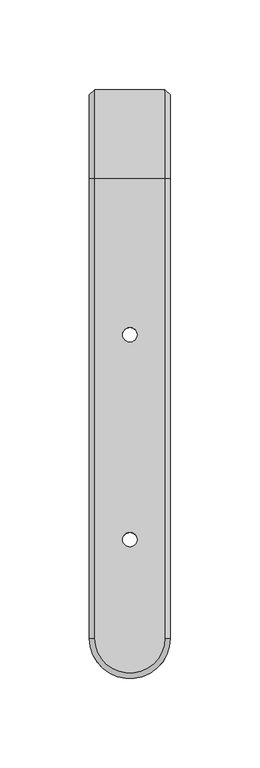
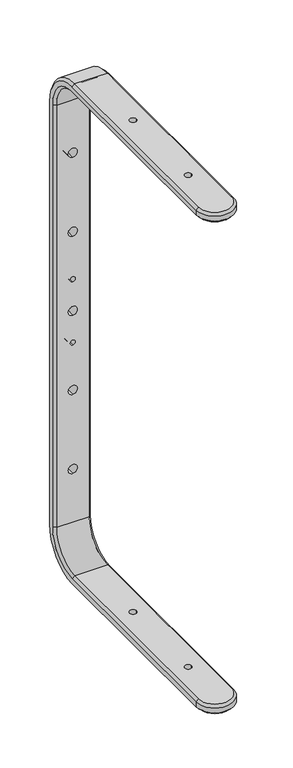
"""IFC4 building model written with IfcOpenShell, lengths in millimetres: proxy geometry, ePS12-HBRK600-WVM : ePS12-HBRK600-WVM."""

from ifc_helpers import new_model, si_unit, frame, origin, place, context, project, spatial, polyline, circle_curve, source, transform, mapped, element, save
from ifc_brep_helpers import plane_surface, cylinder_surface, revolved_surface, advanced_brep


def generic_models_739b781f(model_context):
    return source(origin(), model_context, "Body", "AdvancedBrep", [
        advanced_brep(
        [(19.5718345, -306.5012591, 317.0), (19.5718345, -50.0, 317.0), (-19.5718345, -50.0, 317.0), (-19.5718345, -306.5012591, 317.0), (4.0, -137.0012591, 317.0), (-4.0, -137.0012591, 317.0), (4.0, -251.5012591, 317.0), (-4.0, -251.5012591, 317.0), (-22.5718345, -50.0, 314.0), (-22.5718345, -306.5012591, 314.0), (-22.5718345, -3.0, 267.0), (-22.5718345, -3.0, -267.0), (-22.5718345, -50.0, -314.0), (-22.5718345, -306.5012591, -314.0), (-22.5718345, -306.5012591, -308.0), (-22.5718345, -50.0, -308.0), (-22.5718345, -9.0, -267.0), (-22.5718345, -9.0, 267.0), (-22.5718345, -50.0, 308.0), (-22.5718345, -306.5012591, 308.0), (-19.5718345, -50.0, 305.0), (-19.5718345, -306.5012591, 305.0), (19.5718345, -50.0, 305.0), (19.5718345, -306.5012591, 305.0), (-4.0, -137.0012591, 305.0), (4.0, -137.0012591, 305.0), (-4.0, -251.5012591, 305.0), (4.0, -251.5012591, 305.0), (19.5718345, 0.0, 267.0), (-19.5718345, 0.0, 267.0), (-19.5718345, -12.0, 267.0), (19.5718345, -12.0, 267.0), (19.5718345, 0.0, -267.0), (-19.5718345, 0.0, -267.0), (0.0, 0.0, 5.5), (0.0, 0.0, -5.5), (0.0, 0.0, -194.5), (0.0, 0.0, -205.5), (0.0, 0.0, -37.0), (0.0, 0.0, -43.0), (0.0, 0.0, -94.5), (0.0, 0.0, -105.5), (0.0, 0.0, 194.5), (0.0, 0.0, 205.5), (0.0, 0.0, 37.0), (0.0, 0.0, 43.0), (0.0, 0.0, 94.5), (0.0, 0.0, 105.5), (-19.5718345, -12.0, -267.0), (19.5718345, -12.0, -267.0), (0.0, -12.0, -5.5), (0.0, -12.0, 5.5), (0.0, -12.0, -205.5), (0.0, -12.0, -194.5), (0.0, -12.0, -43.0), (0.0, -12.0, -37.0), (0.0, -12.0, -105.5), (0.0, -12.0, -94.5), (0.0, -12.0, 205.5), (0.0, -12.0, 194.5), (0.0, -12.0, 43.0), (0.0, -12.0, 37.0), (0.0, -12.0, 105.5), (0.0, -12.0, 94.5), (19.5718345, -50.0, -317.0), (-19.5718345, -50.0, -317.0), (-19.5718345, -50.0, -305.0), (19.5718345, -50.0, -305.0), (19.5718345, -306.5012591, -317.0), (-19.5718345, -306.5012591, -317.0), (-4.0, -137.0012591, -317.0), (4.0, -137.0012591, -317.0), (-4.0, -251.5012591, -317.0), (4.0, -251.5012591, -317.0), (-19.5718345, -306.5012591, -305.0), (19.5718345, -306.5012591, -305.0), (4.0, -137.0012591, -305.0), (-4.0, -137.0012591, -305.0), (4.0, -251.5012591, -305.0), (-4.0, -251.5012591, -305.0), (22.5718345, -50.0, 308.0), (22.5718345, -306.5012591, 308.0), (22.5718345, -9.0, 267.0), (22.5718345, -9.0, -267.0), (22.5718345, -50.0, -308.0), (22.5718345, -306.5012591, -308.0), (22.5718345, -306.5012591, -314.0), (22.5718345, -50.0, -314.0), (22.5718345, -3.0, -267.0), (22.5718345, -3.0, 267.0), (22.5718345, -50.0, 314.0), (22.5718345, -306.5012591, 314.0)],
        [
            (0, 1),
            (1, 2),
            (2, 3),
            (3, 0, circle_curve(frame((0.0, -306.5012591, 317.0), z_axis=(0.0, 0.0, 1.0), x_axis=(-1.0, 0.0, 0.0)), 19.5718345)),
            (4, 5, circle_curve(frame((0.0, -137.0012591, 317.0), z_axis=(0.0, 0.0, -1.0), x_axis=(1.0, 0.0, 0.0)), 4.0)),
            (5, 4, circle_curve(frame((0.0, -137.0012591, 317.0), z_axis=(0.0, 0.0, -1.0), x_axis=(1.0, 0.0, 0.0)), 4.0)),
            (6, 7, circle_curve(frame((0.0, -251.5012591, 317.0), z_axis=(0.0, 0.0, -1.0), x_axis=(1.0, 0.0, 0.0)), 4.0)),
            (7, 6, circle_curve(frame((0.0, -251.5012591, 317.0), z_axis=(0.0, 0.0, -1.0), x_axis=(1.0, 0.0, 0.0)), 4.0)),
            (2, 8),
            (8, 9),
            (9, 3),
            (8, 10, circle_curve(frame((-22.5718345, -50.0, 267.0), z_axis=(-1.0, 0.0, 0.0), x_axis=(0.0, 0.0, 1.0)), 47.0)),
            (10, 11),
            (11, 12, circle_curve(frame((-22.5718345, -50.0, -267.0), z_axis=(-1.0, 0.0, 0.0), x_axis=(0.0, 1.0, 0.0)), 47.0)),
            (12, 13),
            (13, 14),
            (14, 15),
            (15, 16, circle_curve(frame((-22.5718345, -50.0, -267.0), z_axis=(1.0, 0.0, 0.0), x_axis=(0.0, 1.0, 0.0)), 41.0)),
            (16, 17),
            (17, 18, circle_curve(frame((-22.5718345, -50.0, 267.0), z_axis=(1.0, 0.0, 0.0), x_axis=(0.0, 0.0, 1.0)), 41.0)),
            (18, 19),
            (19, 9),
            (18, 20),
            (20, 21),
            (21, 19),
            (20, 22),
            (22, 23),
            (23, 21, circle_curve(frame((0.0, -306.5012591, 305.0), z_axis=(0.0, 0.0, -1.0), x_axis=(-1.0, 0.0, 0.0)), 19.5718345)),
            (24, 25, circle_curve(frame((0.0, -137.0012591, 305.0), z_axis=(0.0, 0.0, 1.0), x_axis=(1.0, 0.0, 0.0)), 4.0)),
            (25, 24, circle_curve(frame((0.0, -137.0012591, 305.0), z_axis=(0.0, 0.0, 1.0), x_axis=(1.0, 0.0, 0.0)), 4.0)),
            (26, 27, circle_curve(frame((0.0, -251.5012591, 305.0), z_axis=(0.0, 0.0, 1.0), x_axis=(1.0, 0.0, 0.0)), 4.0)),
            (27, 26, circle_curve(frame((0.0, -251.5012591, 305.0), z_axis=(0.0, 0.0, 1.0), x_axis=(1.0, 0.0, 0.0)), 4.0)),
            (1, 28, circle_curve(frame((19.5718345, -50.0, 267.0), z_axis=(-1.0, 0.0, 0.0), x_axis=(0.0, 0.0, 1.0)), 50.0)),
            (28, 29),
            (29, 2, circle_curve(frame((-19.5718345, -50.0, 267.0), z_axis=(1.0, 0.0, 0.0), x_axis=(0.0, 0.0, 1.0)), 50.0)),
            (29, 10),
            (17, 30),
            (30, 20, circle_curve(frame((-19.5718345, -50.0, 267.0), z_axis=(1.0, 0.0, 0.0), x_axis=(0.0, 0.0, 1.0)), 38.0)),
            (30, 31),
            (31, 22, circle_curve(frame((19.5718345, -50.0, 267.0), z_axis=(1.0, 0.0, 0.0), x_axis=(0.0, 0.0, 1.0)), 38.0)),
            (28, 32),
            (32, 33),
            (33, 29),
            (34, 35, circle_curve(frame((0.0, 0.0, 0.0), z_axis=(0.0, -1.0, 0.0), x_axis=(0.0, 0.0, 1.0)), 5.5)),
            (35, 34, circle_curve(frame((0.0, 0.0, 0.0), z_axis=(0.0, -1.0, 0.0), x_axis=(0.0, 0.0, 1.0)), 5.5)),
            (36, 37, circle_curve(frame((0.0, 0.0, -200.0), z_axis=(0.0, -1.0, 0.0), x_axis=(0.0, 0.0, 1.0)), 5.5)),
            (37, 36, circle_curve(frame((0.0, 0.0, -200.0), z_axis=(0.0, -1.0, 0.0), x_axis=(0.0, 0.0, 1.0)), 5.5)),
            (38, 39, circle_curve(frame((0.0, 0.0, -40.0), z_axis=(0.0, -1.0, 0.0), x_axis=(0.0, 0.0, 1.0)), 3.0)),
            (39, 38, circle_curve(frame((0.0, 0.0, -40.0), z_axis=(0.0, -1.0, 0.0), x_axis=(0.0, 0.0, 1.0)), 3.0)),
            (40, 41, circle_curve(frame((0.0, 0.0, -100.0), z_axis=(0.0, -1.0, 0.0), x_axis=(0.0, 0.0, 1.0)), 5.5)),
            (41, 40, circle_curve(frame((0.0, 0.0, -100.0), z_axis=(0.0, -1.0, 0.0), x_axis=(0.0, 0.0, 1.0)), 5.5)),
            (42, 43, circle_curve(frame((0.0, 0.0, 200.0), z_axis=(0.0, -1.0, 0.0), x_axis=(0.0, 0.0, -1.0)), 5.5)),
            (43, 42, circle_curve(frame((0.0, 0.0, 200.0), z_axis=(0.0, -1.0, 0.0), x_axis=(0.0, 0.0, -1.0)), 5.5)),
            (44, 45, circle_curve(frame((0.0, 0.0, 40.0), z_axis=(0.0, -1.0, 0.0), x_axis=(0.0, 0.0, -1.0)), 3.0)),
            (45, 44, circle_curve(frame((0.0, 0.0, 40.0), z_axis=(0.0, -1.0, 0.0), x_axis=(0.0, 0.0, -1.0)), 3.0)),
            (46, 47, circle_curve(frame((0.0, 0.0, 100.0), z_axis=(0.0, -1.0, 0.0), x_axis=(0.0, 0.0, -1.0)), 5.5)),
            (47, 46, circle_curve(frame((0.0, 0.0, 100.0), z_axis=(0.0, -1.0, 0.0), x_axis=(0.0, 0.0, -1.0)), 5.5)),
            (33, 11),
            (16, 48),
            (48, 30),
            (48, 49),
            (49, 31),
            (50, 51, circle_curve(frame((0.0, -12.0, 0.0), z_axis=(0.0, 1.0, 0.0), x_axis=(0.0, 0.0, 1.0)), 5.5)),
            (51, 50, circle_curve(frame((0.0, -12.0, 0.0), z_axis=(0.0, 1.0, 0.0), x_axis=(0.0, 0.0, 1.0)), 5.5)),
            (52, 53, circle_curve(frame((0.0, -12.0, -200.0), z_axis=(0.0, 1.0, 0.0), x_axis=(0.0, 0.0, 1.0)), 5.5)),
            (53, 52, circle_curve(frame((0.0, -12.0, -200.0), z_axis=(0.0, 1.0, 0.0), x_axis=(0.0, 0.0, 1.0)), 5.5)),
            (54, 55, circle_curve(frame((0.0, -12.0, -40.0), z_axis=(0.0, 1.0, 0.0), x_axis=(0.0, 0.0, 1.0)), 3.0)),
            (55, 54, circle_curve(frame((0.0, -12.0, -40.0), z_axis=(0.0, 1.0, 0.0), x_axis=(0.0, 0.0, 1.0)), 3.0)),
            (56, 57, circle_curve(frame((0.0, -12.0, -100.0), z_axis=(0.0, 1.0, 0.0), x_axis=(0.0, 0.0, 1.0)), 5.5)),
            (57, 56, circle_curve(frame((0.0, -12.0, -100.0), z_axis=(0.0, 1.0, 0.0), x_axis=(0.0, 0.0, 1.0)), 5.5)),
            (58, 59, circle_curve(frame((0.0, -12.0, 200.0), z_axis=(0.0, 1.0, 0.0), x_axis=(0.0, 0.0, -1.0)), 5.5)),
            (59, 58, circle_curve(frame((0.0, -12.0, 200.0), z_axis=(0.0, 1.0, 0.0), x_axis=(0.0, 0.0, -1.0)), 5.5)),
            (60, 61, circle_curve(frame((0.0, -12.0, 40.0), z_axis=(0.0, 1.0, 0.0), x_axis=(0.0, 0.0, -1.0)), 3.0)),
            (61, 60, circle_curve(frame((0.0, -12.0, 40.0), z_axis=(0.0, 1.0, 0.0), x_axis=(0.0, 0.0, -1.0)), 3.0)),
            (62, 63, circle_curve(frame((0.0, -12.0, 100.0), z_axis=(0.0, 1.0, 0.0), x_axis=(0.0, 0.0, -1.0)), 5.5)),
            (63, 62, circle_curve(frame((0.0, -12.0, 100.0), z_axis=(0.0, 1.0, 0.0), x_axis=(0.0, 0.0, -1.0)), 5.5)),
            (32, 64, circle_curve(frame((19.5718345, -50.0, -267.0), z_axis=(-1.0, 0.0, 0.0), x_axis=(0.0, 1.0, 0.0)), 50.0)),
            (64, 65),
            (65, 33, circle_curve(frame((-19.5718345, -50.0, -267.0), z_axis=(1.0, 0.0, 0.0), x_axis=(0.0, 1.0, 0.0)), 50.0)),
            (65, 12),
            (15, 66),
            (66, 48, circle_curve(frame((-19.5718345, -50.0, -267.0), z_axis=(1.0, 0.0, 0.0), x_axis=(0.0, 1.0, 0.0)), 38.0)),
            (66, 67),
            (67, 49, circle_curve(frame((19.5718345, -50.0, -267.0), z_axis=(1.0, 0.0, 0.0), x_axis=(0.0, 1.0, 0.0)), 38.0)),
            (64, 68),
            (68, 69, circle_curve(frame((0.0, -306.5012591, -317.0), z_axis=(0.0, 0.0, -1.0), x_axis=(-1.0, 0.0, 0.0)), 19.5718345)),
            (69, 65),
            (70, 71, circle_curve(frame((0.0, -137.0012591, -317.0), z_axis=(0.0, 0.0, 1.0), x_axis=(1.0, 0.0, 0.0)), 4.0)),
            (71, 70, circle_curve(frame((0.0, -137.0012591, -317.0), z_axis=(0.0, 0.0, 1.0), x_axis=(1.0, 0.0, 0.0)), 4.0)),
            (72, 73, circle_curve(frame((0.0, -251.5012591, -317.0), z_axis=(0.0, 0.0, 1.0), x_axis=(1.0, 0.0, 0.0)), 4.0)),
            (73, 72, circle_curve(frame((0.0, -251.5012591, -317.0), z_axis=(0.0, 0.0, 1.0), x_axis=(1.0, 0.0, 0.0)), 4.0)),
            (69, 13),
            (14, 74),
            (74, 66),
            (74, 75, circle_curve(frame((0.0, -306.5012591, -305.0), z_axis=(0.0, 0.0, 1.0), x_axis=(-1.0, 0.0, 0.0)), 19.5718345)),
            (75, 67),
            (76, 77, circle_curve(frame((0.0, -137.0012591, -305.0), z_axis=(0.0, 0.0, -1.0), x_axis=(1.0, 0.0, 0.0)), 4.0)),
            (77, 76, circle_curve(frame((0.0, -137.0012591, -305.0), z_axis=(0.0, 0.0, -1.0), x_axis=(1.0, 0.0, 0.0)), 4.0)),
            (78, 79, circle_curve(frame((0.0, -251.5012591, -305.0), z_axis=(0.0, 0.0, -1.0), x_axis=(1.0, 0.0, 0.0)), 4.0)),
            (79, 78, circle_curve(frame((0.0, -251.5012591, -305.0), z_axis=(0.0, 0.0, -1.0), x_axis=(1.0, 0.0, 0.0)), 4.0)),
            (22, 80),
            (80, 81),
            (81, 23),
            (80, 82, circle_curve(frame((22.5718345, -50.0, 267.0), z_axis=(-1.0, 0.0, 0.0), x_axis=(0.0, 0.0, 1.0)), 41.0)),
            (82, 83),
            (83, 84, circle_curve(frame((22.5718345, -50.0, -267.0), z_axis=(-1.0, 0.0, 0.0), x_axis=(0.0, 1.0, 0.0)), 41.0)),
            (84, 85),
            (85, 86),
            (86, 87),
            (87, 88, circle_curve(frame((22.5718345, -50.0, -267.0), z_axis=(1.0, 0.0, 0.0), x_axis=(0.0, 1.0, 0.0)), 47.0)),
            (88, 89),
            (89, 90, circle_curve(frame((22.5718345, -50.0, 267.0), z_axis=(1.0, 0.0, 0.0), x_axis=(0.0, 0.0, 1.0)), 47.0)),
            (90, 91),
            (91, 81),
            (0, 91),
            (90, 1),
            (31, 82),
            (89, 28),
            (49, 83),
            (88, 32),
            (67, 84),
            (87, 64),
            (75, 85),
            (86, 68),
            (85, 14, circle_curve(frame((0.0, -306.5012591, -308.0), z_axis=(0.0, 0.0, -1.0), x_axis=(-1.0, 0.0, 0.0)), 22.5718345)),
            (13, 86, circle_curve(frame((0.0, -306.5012591, -314.0), z_axis=(0.0, 0.0, 1.0), x_axis=(-1.0, 0.0, 0.0)), 22.5718345)),
            (91, 9, circle_curve(frame((0.0, -306.5012591, 314.0), z_axis=(0.0, 0.0, -1.0), x_axis=(-1.0, 0.0, 0.0)), 22.5718345)),
            (19, 81, circle_curve(frame((0.0, -306.5012591, 308.0), z_axis=(0.0, 0.0, 1.0), x_axis=(-1.0, 0.0, 0.0)), 22.5718345)),
            (50, 35),
            (34, 51),
            (52, 37),
            (36, 53),
            (54, 39),
            (38, 55),
            (24, 5),
            (4, 25),
            (70, 77),
            (76, 71),
            (56, 41),
            (40, 57),
            (58, 43),
            (42, 59),
            (60, 45),
            (44, 61),
            (62, 47),
            (46, 63),
            (26, 7),
            (6, 27),
            (72, 79),
            (78, 73),
        ],
        [
            plane_surface(frame((19.5718345, -306.5012591, 317.0), z_axis=(0.0, 0.0, 1.0), x_axis=(0.0, 1.0, 0.0))),
            plane_surface(frame((-19.5718345, -306.5012591, 317.0), z_axis=(-0.7071067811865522, 0.0, 0.7071067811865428), x_axis=(0.0, 1.0, 0.0))),
            plane_surface(frame((-22.5718345, -306.5012591, 314.0), z_axis=(-1.0, 0.0, 0.0), x_axis=(0.0, 1.0, 0.0))),
            plane_surface(frame((-22.5718345, -306.5012591, 308.0), z_axis=(-0.7071067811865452, 0.0, -0.7071067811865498), x_axis=(0.0, 1.0, 0.0))),
            plane_surface(frame((-19.5718345, -306.5012591, 305.0), z_axis=(0.0, 0.0, -1.0), x_axis=(0.0, 1.0, 0.0))),
            cylinder_surface(frame((0.0, -50.0, 267.0), z_axis=(-1.0, 0.0, 0.0), x_axis=(0.0, 0.0, 1.0)), 50.0),
            revolved_surface(polyline([(-19.5718345, -50.0, 317.0), (-22.5718345, -50.0, 314.0)]), (0.0, -50.0, 267.0), (-1.0, 0.0, 0.0)),
            revolved_surface(polyline([(-22.5718345, -50.0, 308.0), (-19.5718345, -50.0, 305.0)]), (0.0, -50.0, 267.0), (-1.0, 0.0, 0.0)),
            revolved_surface(polyline([(-19.5718345, -50.0, 305.0), (19.5718345, -50.0, 305.0)]), (0.0, -50.0, 267.0), (-1.0, 0.0, 0.0)),
            plane_surface(frame((19.5718345, 0.0, 267.0), z_axis=(0.0, 1.0, 0.0), x_axis=(0.0, 0.0, -1.0))),
            plane_surface(frame((-19.5718345, 0.0, 267.0), z_axis=(-0.7071067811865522, 0.7071067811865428, 0.0), x_axis=(0.0, 0.0, -1.0))),
            plane_surface(frame((-22.5718345, -9.0, 267.0), z_axis=(-0.7071067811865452, -0.7071067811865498, 0.0), x_axis=(0.0, 0.0, -1.0))),
            plane_surface(frame((-19.5718345, -12.0, 267.0), z_axis=(0.0, -1.0, 0.0), x_axis=(0.0, 0.0, -1.0))),
            cylinder_surface(frame((0.0, -50.0, -267.0), z_axis=(-1.0, 0.0, 0.0), x_axis=(0.0, 1.0, 0.0)), 50.0),
            revolved_surface(polyline([(-19.5718345, 0.0, -267.0), (-22.5718345, -3.0, -267.0)]), (0.0, -50.0, -267.0), (-1.0, 0.0, 0.0)),
            revolved_surface(polyline([(-22.5718345, -9.0, -267.0), (-19.5718345, -12.0, -267.0)]), (0.0, -50.0, -267.0), (-1.0, 0.0, 0.0)),
            revolved_surface(polyline([(-19.5718345, -12.0, -267.0), (19.5718345, -12.0, -267.0)]), (0.0, -50.0, -267.0), (-1.0, 0.0, 0.0)),
            plane_surface(frame((19.5718345, -50.0, -317.0), z_axis=(0.0, 0.0, -1.0), x_axis=(0.0, -1.0, 0.0))),
            plane_surface(frame((-19.5718345, -50.0, -317.0), z_axis=(-0.7071067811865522, 0.0, -0.7071067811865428), x_axis=(0.0, -1.0, 0.0))),
            plane_surface(frame((-22.5718345, -50.0, -308.0), z_axis=(-0.7071067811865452, 0.0, 0.7071067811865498), x_axis=(0.0, -1.0, 0.0))),
            plane_surface(frame((-19.5718345, -50.0, -305.0), z_axis=(0.0, 0.0, 1.0), x_axis=(0.0, -1.0, 0.0))),
            plane_surface(frame((19.5718345, -306.5012591, 305.0), z_axis=(0.7071067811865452, 0.0, -0.7071067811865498), x_axis=(0.0, 1.0, 0.0))),
            plane_surface(frame((22.5718345, -306.5012591, 308.0), z_axis=(1.0, 0.0, 0.0), x_axis=(0.0, 1.0, 0.0))),
            plane_surface(frame((22.5718345, -306.5012591, 314.0), z_axis=(0.7071067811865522, 0.0, 0.7071067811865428), x_axis=(0.0, 1.0, 0.0))),
            revolved_surface(polyline([(19.5718345, -50.0, 305.0), (22.5718345, -50.0, 308.0)]), (0.0, -50.0, 267.0), (-1.0, 0.0, 0.0)),
            revolved_surface(polyline([(22.5718345, -50.0, 314.0), (19.5718345, -50.0, 317.0)]), (0.0, -50.0, 267.0), (-1.0, 0.0, 0.0)),
            plane_surface(frame((19.5718345, -12.0, 267.0), z_axis=(0.7071067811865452, -0.7071067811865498, 0.0), x_axis=(0.0, 0.0, -1.0))),
            plane_surface(frame((22.5718345, -3.0, 267.0), z_axis=(0.7071067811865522, 0.7071067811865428, 0.0), x_axis=(0.0, 0.0, -1.0))),
            revolved_surface(polyline([(19.5718345, -12.0, -267.0), (22.5718345, -9.0, -267.0)]), (0.0, -50.0, -267.0), (-1.0, 0.0, 0.0)),
            revolved_surface(polyline([(22.5718345, -3.0, -267.0), (19.5718345, 0.0, -267.0)]), (0.0, -50.0, -267.0), (-1.0, 0.0, 0.0)),
            plane_surface(frame((19.5718345, -50.0, -305.0), z_axis=(0.7071067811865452, 0.0, 0.7071067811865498), x_axis=(0.0, -1.0, 0.0))),
            plane_surface(frame((22.5718345, -50.0, -314.0), z_axis=(0.7071067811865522, 0.0, -0.7071067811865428), x_axis=(0.0, -1.0, 0.0))),
            cylinder_surface(frame((0.0, -306.5012591, 1882.5), z_axis=(0.0, 0.0, 1.0), x_axis=(-1.0, 0.0, 0.0)), 22.5718345),
            revolved_surface(polyline([(-22.5718345, -306.5012591, -308.0), (-19.5718345, -306.5012591, -305.0)]), (0.0, -306.5012591, 1882.5), (0.0, 0.0, 1.0)),
            revolved_surface(polyline([(-19.5718345, -306.5012591, -317.0), (-22.5718345, -306.5012591, -314.0)]), (0.0, -306.5012591, 1882.5), (0.0, 0.0, 1.0)),
            cylinder_surface(frame((0.0, -306.5012591, -1882.5), z_axis=(0.0, 0.0, 1.0), x_axis=(-1.0, 0.0, 0.0)), 22.5718345),
            revolved_surface(polyline([(-19.5718345, -306.5012591, 305.0), (-22.5718345, -306.5012591, 308.0)]), (0.0, -306.5012591, -1882.5), (0.0, 0.0, 1.0)),
            revolved_surface(polyline([(-22.5718345, -306.5012591, 314.0), (-19.5718345, -306.5012591, 317.0)]), (0.0, -306.5012591, -1882.5), (0.0, 0.0, 1.0)),
            revolved_surface(polyline([(0.0, 0.0, 5.5), (0.0, -12.0, 5.5)]), (0.0, -20.0, 0.0), (0.0, 1.0, 0.0)),
            revolved_surface(polyline([(0.0, 0.0, -194.5), (0.0, -12.0, -194.5)]), (0.0, 0.0, -200.0), (0.0, 1.0, 0.0)),
            revolved_surface(polyline([(0.0, 0.0, -37.0), (0.0, -12.0, -37.0)]), (0.0, 0.0, -40.0), (0.0, 1.0, 0.0)),
            revolved_surface(polyline([(4.0, -137.0012591, 317.0), (4.0, -137.0012591, 305.0)]), (0.0, -137.0012591, -317.0), (0.0, 0.0, 1.0)),
            revolved_surface(polyline([(4.0, -137.0012591, -305.0), (4.0, -137.0012591, -317.0)]), (0.0, -137.0012591, -317.0), (0.0, 0.0, 1.0)),
            revolved_surface(polyline([(0.0, 0.0, -94.5), (0.0, -12.0, -94.5)]), (0.0, 0.0, -100.0), (0.0, 1.0, 0.0)),
            revolved_surface(polyline([(0.0, 0.0, 194.5), (0.0, -12.0, 194.5)]), (0.0, 0.0, 200.0), (0.0, 1.0, 0.0)),
            revolved_surface(polyline([(0.0, 0.0, 37.0), (0.0, -12.0, 37.0)]), (0.0, 0.0, 40.0), (0.0, 1.0, 0.0)),
            revolved_surface(polyline([(0.0, 0.0, 94.5), (0.0, -12.0, 94.5)]), (0.0, 0.0, 100.0), (0.0, 1.0, 0.0)),
            revolved_surface(polyline([(4.0, -251.5012591, 317.0), (4.0, -251.5012591, 305.0)]), (0.0, -251.5012591, 0.0), (0.0, 0.0, 1.0)),
            revolved_surface(polyline([(4.0, -251.5012591, -305.0), (4.0, -251.5012591, -317.0)]), (0.0, -251.5012591, 0.0), (0.0, 0.0, 1.0)),
        ],
        [
            (0, [[1, 2, 3, 4], [5, 6], [7, 8]]),
            (1, [[-3, 9, 10, 11]]),
            (2, [[-10, 12, 13, 14, 15, 16, 17, 18, 19, 20, 21, 22]]),
            (3, [[-21, 23, 24, 25]]),
            (4, [[-24, 26, 27, 28], [29, 30], [31, 32]]),
            (5, [[-2, 33, 34, 35]]),
            (6, [[-9, -35, 36, -12]]),
            (7, [[-20, 37, 38, -23]]),
            (8, [[-26, -38, 39, 40]]),
            (9, [[-34, 41, 42, 43], [44, 45], [46, 47], [48, 49], [50, 51], [52, 53], [54, 55], [56, 57]]),
            (10, [[-13, -36, -43, 58]]),
            (11, [[-19, 59, 60, -37]]),
            (12, [[-39, -60, 61, 62], [63, 64], [65, 66], [67, 68], [69, 70], [71, 72], [73, 74], [75, 76]]),
            (13, [[-42, 77, 78, 79]]),
            (14, [[-14, -58, -79, 80]]),
            (15, [[-18, 81, 82, -59]]),
            (16, [[-61, -82, 83, 84]]),
            (17, [[-78, 85, 86, 87], [88, 89], [90, 91]]),
            (18, [[-15, -80, -87, 92]]),
            (19, [[-17, 93, 94, -81]]),
            (20, [[-83, -94, 95, 96], [97, 98], [99, 100]]),
            (21, [[-27, 101, 102, 103]]),
            (22, [[-102, 104, 105, 106, 107, 108, 109, 110, 111, 112, 113, 114]]),
            (23, [[-1, 115, -113, 116]]),
            (24, [[-40, 117, -104, -101]]),
            (25, [[-33, -116, -112, 118]]),
            (26, [[-62, 119, -105, -117]]),
            (27, [[-41, -118, -111, 120]]),
            (28, [[-84, 121, -106, -119]]),
            (29, [[-77, -120, -110, 122]]),
            (30, [[-96, 123, -107, -121]]),
            (31, [[-85, -122, -109, 124]]),
            (32, [[125, -16, 126, -108]]),
            (33, [[-125, -123, -95, -93]]),
            (34, [[-126, -92, -86, -124]]),
            (35, [[127, -22, 128, -114]]),
            (36, [[-128, -25, -28, -103]]),
            (37, [[-127, -115, -4, -11]]),
            (38, [[129, -44, 130, -63]]),
            (38, [[-129, -64, -130, -45]]),
            (39, [[131, -46, 132, -65]]),
            (39, [[-131, -66, -132, -47]]),
            (40, [[133, -48, 134, -67]]),
            (40, [[-133, -68, -134, -49]]),
            (41, [[135, -5, 136, -29]]),
            (42, [[137, -97, 138, -88]]),
            (41, [[-135, -30, -136, -6]]),
            (42, [[-137, -89, -138, -98]]),
            (43, [[139, -50, 140, -69]]),
            (43, [[-139, -70, -140, -51]]),
            (44, [[141, -52, 142, -71]]),
            (44, [[-141, -72, -142, -53]]),
            (45, [[143, -54, 144, -73]]),
            (45, [[-143, -74, -144, -55]]),
            (46, [[145, -56, 146, -75]]),
            (46, [[-145, -76, -146, -57]]),
            (47, [[147, -7, 148, -31]]),
            (48, [[149, -99, 150, -90]]),
            (47, [[-147, -32, -148, -8]]),
            (48, [[-149, -91, -150, -100]]),
        ],
    ),
    ])


if __name__ == "__main__":
    model = new_model("IFC4")
    model_context = context("Model", 3, world=origin())
    ifc_project = project(units=[si_unit("LENGTHUNIT", "METRE", prefix="MILLI")], contexts=[model_context])
    site = spatial("IfcSite", under=ifc_project)
    building = spatial("IfcBuilding", under=site)
    placement = place(None, origin())
    generic_models_shape = generic_models_739b781f(model_context)
    element("IfcBuildingElementProxy", 1, Name="ePS12-HBRK600-WVM : ePS12-HBRK600-WVM", ObjectType="ePS12-HBRK600-WVM : ePS12-HBRK600-WVM", at=placement, inside=building, context=model_context, shape_type="MappedRepresentation", body=[
        mapped(generic_models_shape, transform((0.0, 0.0, 0.0), x_axis=(1.0, 0.0, 0.0), y_axis=(0.0, 1.0, 0.0), z_axis=(0.0, 0.0, 1.0))),
    ])
    save(model, "model.ifc")
